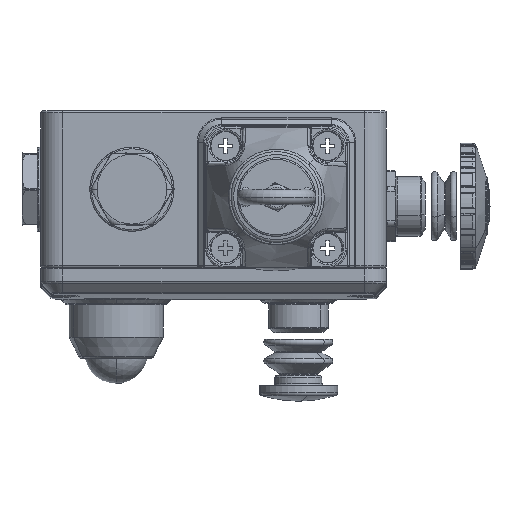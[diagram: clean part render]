
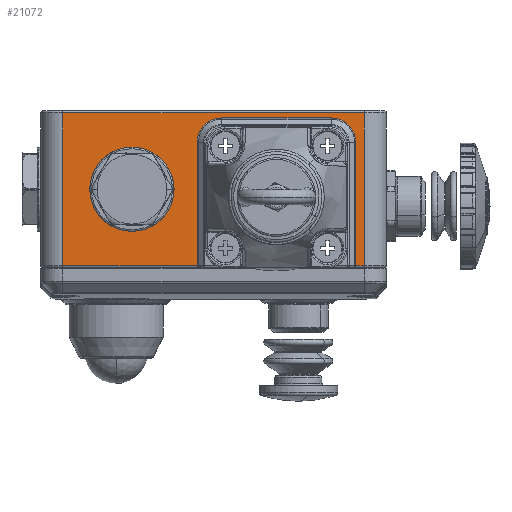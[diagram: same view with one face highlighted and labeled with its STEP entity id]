
A CAD part, left-side view. The second image highlights one B-rep face of the part: STEP entity #21072.
In plain terms, the highlighted planar face has unit normal (-1, 0, 0).
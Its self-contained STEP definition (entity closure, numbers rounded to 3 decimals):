
#1879 = AXIS2_PLACEMENT_3D ( 'NONE', #12866, #12867, #12868 ) ;
#1881 = AXIS2_PLACEMENT_3D ( 'NONE', #12883, #12885, #12886 ) ;
#1992 = AXIS2_PLACEMENT_3D ( 'NONE', #13796, #13799, #13801 ) ;
#1994 = AXIS2_PLACEMENT_3D ( 'NONE', #13758, #13792, #13794 ) ;
#2352 = AXIS2_PLACEMENT_3D ( 'NONE', #4774, #4781, #4783 ) ;
#4774 = CARTESIAN_POINT ( 'NONE',  ( 0., 0., 50. ) ) ;
#4776 = PLANE ( 'NONE',  #2352 ) ;
#4781 = DIRECTION ( 'NONE',  ( 1., 0., 0. ) ) ;
#4783 = DIRECTION ( 'NONE',  ( 0., 1., 0. ) ) ;
#12251 = ORIENTED_EDGE ( 'NONE', *, *, #14679, .T. ) ;
#12252 = ORIENTED_EDGE ( 'NONE', *, *, #14678, .T. ) ;
#12253 = ORIENTED_EDGE ( 'NONE', *, *, #14677, .T. ) ;
#12254 = ORIENTED_EDGE ( 'NONE', *, *, #14414, .T. ) ;
#12255 = ORIENTED_EDGE ( 'NONE', *, *, #14672, .T. ) ;
#12256 = ORIENTED_EDGE ( 'NONE', *, *, #14674, .T. ) ;
#12257 = ORIENTED_EDGE ( 'NONE', *, *, #14482, .T. ) ;
#12258 = ORIENTED_EDGE ( 'NONE', *, *, #14491, .T. ) ;
#12259 = ORIENTED_EDGE ( 'NONE', *, *, #14642, .T. ) ;
#12260 = ORIENTED_EDGE ( 'NONE', *, *, #14249, .T. ) ;
#12261 = ORIENTED_EDGE ( 'NONE', *, *, #14680, .T. ) ;
#12262 = ORIENTED_EDGE ( 'NONE', *, *, #14232, .T. ) ;
#12866 = CARTESIAN_POINT ( 'NONE',  ( 0., -92.5, 40. ) ) ;
#12867 = DIRECTION ( 'NONE',  ( 1., 0., 0. ) ) ;
#12868 = DIRECTION ( 'NONE',  ( 0., 1., 0. ) ) ;
#12883 = CARTESIAN_POINT ( 'NONE',  ( 0., -57.5, 40. ) ) ;
#12885 = DIRECTION ( 'NONE',  ( 1., 0., 0. ) ) ;
#12886 = DIRECTION ( 'NONE',  ( 0., 1., 0. ) ) ;
#13170 = CARTESIAN_POINT ( 'NONE',  ( 0., 0., 0.7 ) ) ;
#13172 = DIRECTION ( 'NONE',  ( 0., -1., 0. ) ) ;
#13304 = CARTESIAN_POINT ( 'NONE',  ( 0., -7., 50. ) ) ;
#13321 = DIRECTION ( 'NONE',  ( 0., 0., -1. ) ) ;
#13341 = CARTESIAN_POINT ( 'NONE',  ( 0., 0., 0.7 ) ) ;
#13343 = DIRECTION ( 'NONE',  ( 0., -1., 0. ) ) ;
#13620 = CARTESIAN_POINT ( 'NONE',  ( 0., -49.793, 50. ) ) ;
#13697 = DIRECTION ( 'NONE',  ( 0., 0., 1. ) ) ;
#13758 = CARTESIAN_POINT ( 'NONE',  ( 0., -29., 25. ) ) ;
#13765 = CARTESIAN_POINT ( 'NONE',  ( 0., -103., 50. ) ) ;
#13767 = DIRECTION ( 'NONE',  ( 0., 0., 1. ) ) ;
#13773 = CARTESIAN_POINT ( 'NONE',  ( 0., -7., 49.3 ) ) ;
#13775 = DIRECTION ( 'NONE',  ( 0., 1., 0. ) ) ;
#13786 = CARTESIAN_POINT ( 'NONE',  ( 0., -100.207, 50. ) ) ;
#13788 = DIRECTION ( 'NONE',  ( 0., 0., -1. ) ) ;
#13792 = DIRECTION ( 'NONE',  ( 1., 0., 0. ) ) ;
#13794 = DIRECTION ( 'NONE',  ( 0., 1., 0. ) ) ;
#13796 = CARTESIAN_POINT ( 'NONE',  ( 0., -29., 25. ) ) ;
#13799 = DIRECTION ( 'NONE',  ( 1., 0., 0. ) ) ;
#13801 = DIRECTION ( 'NONE',  ( 0., 1., 0. ) ) ;
#13803 = CARTESIAN_POINT ( 'NONE',  ( 0., 0., 47.707 ) ) ;
#13805 = DIRECTION ( 'NONE',  ( 0., -1., 0. ) ) ;
#14232 = EDGE_CURVE ( 'NONE', #15343, #15340, #59796, .T. ) ;
#14249 = EDGE_CURVE ( 'NONE', #15337, #15336, #59806, .T. ) ;
#14414 = EDGE_CURVE ( 'NONE', #15291, #15288, #59893, .T. ) ;
#14482 = EDGE_CURVE ( 'NONE', #15267, #15268, #59941, .T. ) ;
#14491 = EDGE_CURVE ( 'NONE', #15268, #15265, #59937, .T. ) ;
#14642 = EDGE_CURVE ( 'NONE', #15265, #15337, #60031, .T. ) ;
#14672 = EDGE_CURVE ( 'NONE', #15288, #15199, #60039, .T. ) ;
#14674 = EDGE_CURVE ( 'NONE', #15199, #15267, #60052, .T. ) ;
#14677 = EDGE_CURVE ( 'NONE', #15340, #15291, #60057, .T. ) ;
#14678 = EDGE_CURVE ( 'NONE', #15200, #15201, #60060, .T. ) ;
#14679 = EDGE_CURVE ( 'NONE', #15201, #15200, #60061, .T. ) ;
#14680 = EDGE_CURVE ( 'NONE', #15336, #15343, #60059, .T. ) ;
#15199 = VERTEX_POINT ( 'NONE', #59076 ) ;
#15200 = VERTEX_POINT ( 'NONE', #59077 ) ;
#15201 = VERTEX_POINT ( 'NONE', #59078 ) ;
#15265 = VERTEX_POINT ( 'NONE', #59142 ) ;
#15267 = VERTEX_POINT ( 'NONE', #59144 ) ;
#15268 = VERTEX_POINT ( 'NONE', #59145 ) ;
#15288 = VERTEX_POINT ( 'NONE', #59165 ) ;
#15291 = VERTEX_POINT ( 'NONE', #59169 ) ;
#15336 = VERTEX_POINT ( 'NONE', #59215 ) ;
#15337 = VERTEX_POINT ( 'NONE', #59216 ) ;
#15340 = VERTEX_POINT ( 'NONE', #59219 ) ;
#15343 = VERTEX_POINT ( 'NONE', #59222 ) ;
#21072 = ADVANCED_FACE ( 'NONE', ( #36565, #36572 ), #4776, .F. ) ;
#36565 = FACE_BOUND ( 'NONE', #51773, .T. ) ;
#36572 = FACE_OUTER_BOUND ( 'NONE', #52011, .T. ) ;
#51773 = EDGE_LOOP ( 'NONE', ( #12251, #12252 ) ) ;
#52011 = EDGE_LOOP ( 'NONE', ( #12253, #12254, #12255, #12256, #12257, #12258, #12259, #12260, #12261, #12262 ) ) ;
#59076 = CARTESIAN_POINT ( 'NONE',  ( 0., -103., 49.3 ) ) ;
#59077 = CARTESIAN_POINT ( 'NONE',  ( 0., -40., 25. ) ) ;
#59078 = CARTESIAN_POINT ( 'NONE',  ( 0., -18., 25. ) ) ;
#59142 = CARTESIAN_POINT ( 'NONE',  ( 0., -49.793, 0.7 ) ) ;
#59144 = CARTESIAN_POINT ( 'NONE',  ( 0., -7., 49.3 ) ) ;
#59145 = CARTESIAN_POINT ( 'NONE',  ( 0., -7., 0.7 ) ) ;
#59165 = CARTESIAN_POINT ( 'NONE',  ( 0., -103., 0.7 ) ) ;
#59169 = CARTESIAN_POINT ( 'NONE',  ( 0., -100.207, 0.7 ) ) ;
#59215 = CARTESIAN_POINT ( 'NONE',  ( 0., -57.5, 47.707 ) ) ;
#59216 = CARTESIAN_POINT ( 'NONE',  ( 0., -49.793, 40. ) ) ;
#59219 = CARTESIAN_POINT ( 'NONE',  ( 0., -100.207, 40. ) ) ;
#59222 = CARTESIAN_POINT ( 'NONE',  ( 0., -92.5, 47.707 ) ) ;
#59796 = CIRCLE ( 'NONE', #1879, 7.707 ) ;
#59806 = CIRCLE ( 'NONE', #1881, 7.707 ) ;
#59893 = LINE ( 'NONE', #13170, #59897 ) ;
#59897 = VECTOR ( 'NONE', #13172, 1000. ) ;
#59935 = VECTOR ( 'NONE', #13321, 1000. ) ;
#59937 = LINE ( 'NONE', #13341, #59943 ) ;
#59941 = LINE ( 'NONE', #13304, #59935 ) ;
#59943 = VECTOR ( 'NONE', #13343, 1000. ) ;
#60017 = VECTOR ( 'NONE', #13697, 1000. ) ;
#60031 = LINE ( 'NONE', #13620, #60017 ) ;
#60039 = LINE ( 'NONE', #13765, #60046 ) ;
#60046 = VECTOR ( 'NONE', #13767, 1000. ) ;
#60052 = LINE ( 'NONE', #13773, #60053 ) ;
#60053 = VECTOR ( 'NONE', #13775, 1000. ) ;
#60054 = VECTOR ( 'NONE', #13805, 1000. ) ;
#60057 = LINE ( 'NONE', #13786, #60058 ) ;
#60058 = VECTOR ( 'NONE', #13788, 1000. ) ;
#60059 = LINE ( 'NONE', #13803, #60054 ) ;
#60060 = CIRCLE ( 'NONE', #1994, 11. ) ;
#60061 = CIRCLE ( 'NONE', #1992, 11. ) ;
